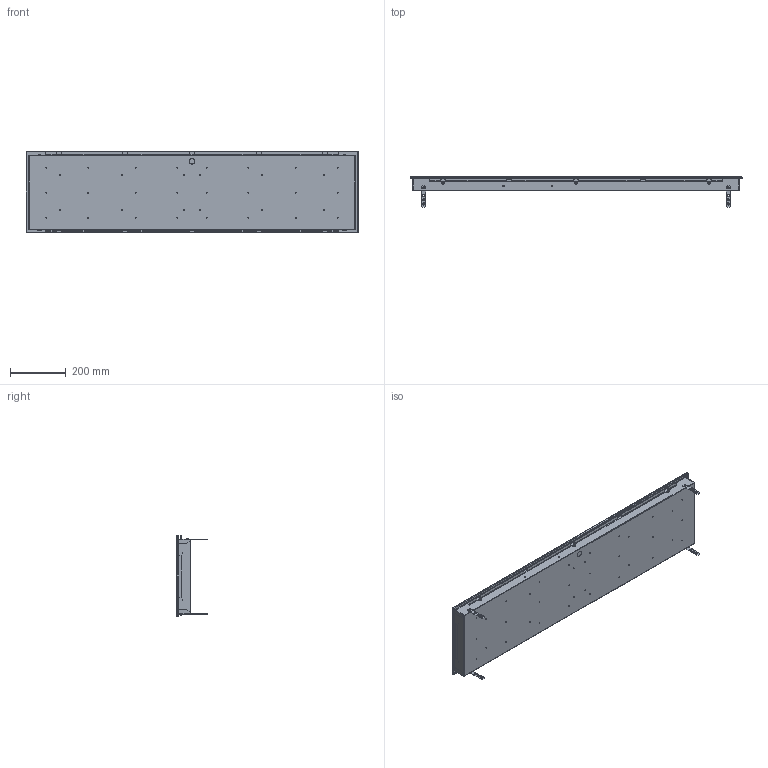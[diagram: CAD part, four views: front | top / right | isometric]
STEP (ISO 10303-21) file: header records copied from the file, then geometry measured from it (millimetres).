
FILE_DESCRIPTION(('STEP AP203'), '1');
FILE_NAME('ÄÊÏ008 03 001.00 ÑÁ - Ñâåòèëüíèê 1200õ300', '', ('UNSPECIFIED'), ('UNSPECIFIED'), 'ASCON STEP Converter 1.6', 'ASCON Math Kernel', '');
FILE_SCHEMA(('CONFIG_CONTROL_DESIGN'));
Length unit declared in the file: millimetre
Products named in the file (14): ДКП008 03 001.00 СБ; ДКП008 03 003.01; ДКП008 01 003.03; ДКП008 03 003.02; ДКП008 02 003.08; ДКП008 03 001.02; ДКП008 03 001.04; ДКП008 02 001.06; ДКП008 02 001.05
Assembly tree (25 placements, depth 3):
  ДКП008 03 001.00 СБ
    ДКП008 03 003.01
      ДКП008 03 003.01
      ДКП008 01 003.03  x4
      ДКП008 03 003.02  x2
      ДКП008 02 003.08  x2
    ДКП008 03 001.02
      ДКП008 03 001.04
      ДКП008 02 001.06
      ДКП008 02 001.05
    (unnamed)
    (unnamed)  x3
    (unnamed)  x3
    (unnamed)  x4
Bounding box: 1192 x 110 x 292 mm (x, y, z)
Volume: 1329845.1 mm3; surface area: 1967458 mm2
Topology: 23 solids, 23 shells, 695 faces, 1647 edges, 1028 vertices
Faces by surface type: plane 446, cylinder 169, bspline 48, torus 20, cone 12
Full cylindrical faces by diameter (mm): 1.85 x4, 2.2 x6, 2.5 x10, 3.2 x4, 3.5 x50, 4.4 x6, 4.5 x2, 8 x12, 20 x1
Entity records: 16459 total; most frequent: CARTESIAN_POINT 4027, DIRECTION 2318, ORIENTED_EDGE 2168, EDGE_CURVE 1084, AXIS2_PLACEMENT_3D 779, LINE 760, VECTOR 760, EDGE_LOOP 696
